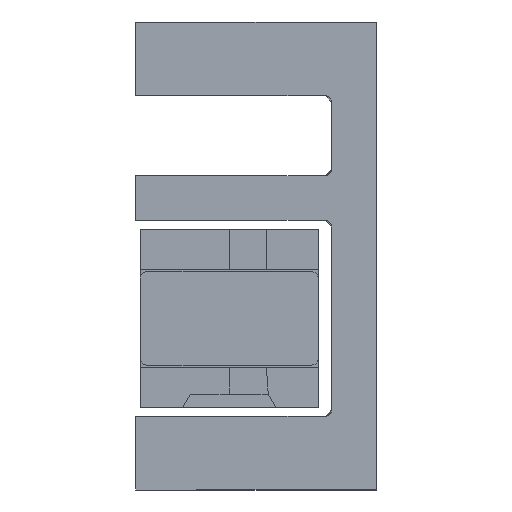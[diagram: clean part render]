
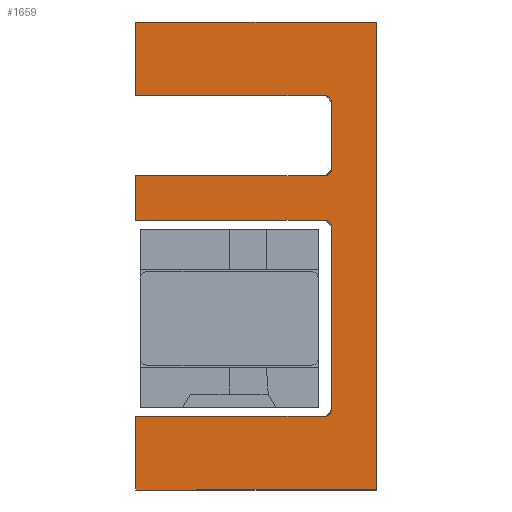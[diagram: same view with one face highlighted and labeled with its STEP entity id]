
A CAD part, front view. The second image highlights one B-rep face of the part: STEP entity #1659.
In plain terms, the highlighted planar face has unit normal (0, -1, 0) as drawn and (0, 0, -1) by its records, which use the part's own axes.
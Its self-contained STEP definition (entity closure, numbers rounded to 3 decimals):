
#19 = EDGE_CURVE ( 'NONE', #894, #3797, #5374, .T. ) ;
#50 = LINE ( 'NONE', #6784, #2550 ) ;
#153 = CIRCLE ( 'NONE', #3770, 0.3 ) ;
#171 = DIRECTION ( 'NONE',  ( 1., 0., 0. ) ) ;
#185 = VERTEX_POINT ( 'NONE', #811 ) ;
#188 = AXIS2_PLACEMENT_3D ( 'NONE', #3116, #5243, #4728 ) ;
#193 = DIRECTION ( 'NONE',  ( 1., 0., 0. ) ) ;
#342 = CARTESIAN_POINT ( 'NONE',  ( 19.3, 1.6, -2870. ) ) ;
#374 = EDGE_LOOP ( 'NONE', ( #6816, #1006, #4424, #4082, #3987, #2815, #3539, #4876, #6753, #1213, #5441, #5026, #6028, #449, #2512, #4072 ) ) ;
#389 = VECTOR ( 'NONE', #754, 1000. ) ;
#449 = ORIENTED_EDGE ( 'NONE', *, *, #19, .F. ) ;
#475 = VECTOR ( 'NONE', #5267, 1000. ) ;
#507 = VERTEX_POINT ( 'NONE', #2284 ) ;
#515 = CARTESIAN_POINT ( 'NONE',  ( 10.4, 10.1, -2870. ) ) ;
#547 = CARTESIAN_POINT ( 'NONE',  ( 1.6, 1.6, -2870. ) ) ;
#570 = CARTESIAN_POINT ( 'NONE',  ( 12.4, 1.6, -2870. ) ) ;
#624 = DIRECTION ( 'NONE',  ( 0., -1., 0. ) ) ;
#647 = EDGE_CURVE ( 'NONE', #4475, #4938, #3147, .T. ) ;
#652 = CARTESIAN_POINT ( 'NONE',  ( 22.3, 1.6, -2870. ) ) ;
#700 = CIRCLE ( 'NONE', #4560, 0.3 ) ;
#754 = DIRECTION ( 'NONE',  ( 1., 0., 0. ) ) ;
#770 = VECTOR ( 'NONE', #5310, 1000. ) ;
#791 = DIRECTION ( 'NONE',  ( 0., -1., 0. ) ) ;
#811 = CARTESIAN_POINT ( 'NONE',  ( 12.7, 10.4, -2870. ) ) ;
#834 = CARTESIAN_POINT ( 'NONE',  ( 20.8, 10.7, -2870. ) ) ;
#884 = CARTESIAN_POINT ( 'NONE',  ( 10.4, 10.1, -2870. ) ) ;
#894 = VERTEX_POINT ( 'NONE', #907 ) ;
#899 = DIRECTION ( 'NONE',  ( 0., 0., -1. ) ) ;
#907 = CARTESIAN_POINT ( 'NONE',  ( -1.7, 1.6, -2870. ) ) ;
#920 = DIRECTION ( 'NONE',  ( 0., -1., 0. ) ) ;
#984 = CARTESIAN_POINT ( 'NONE',  ( 12.4, 10.1, -2870. ) ) ;
#1004 = DIRECTION ( 'NONE',  ( 0., 0., -1. ) ) ;
#1006 = ORIENTED_EDGE ( 'NONE', *, *, #3425, .F. ) ;
#1213 = ORIENTED_EDGE ( 'NONE', *, *, #647, .T. ) ;
#1226 = DIRECTION ( 'NONE',  ( -1., 0., 0. ) ) ;
#1293 = CARTESIAN_POINT ( 'NONE',  ( 1.9, 10.4, -2870. ) ) ;
#1298 = CARTESIAN_POINT ( 'NONE',  ( 12.4, 10.4, -2870. ) ) ;
#1307 = EDGE_CURVE ( 'NONE', #2364, #185, #153, .T. ) ;
#1477 = EDGE_CURVE ( 'NONE', #5698, #1702, #5544, .T. ) ;
#1517 = VERTEX_POINT ( 'NONE', #3800 ) ;
#1603 = DIRECTION ( 'NONE',  ( 0., 1., 0. ) ) ;
#1633 = VECTOR ( 'NONE', #4474, 1000. ) ;
#1659 = ADVANCED_FACE ( 'NONE', ( #2997 ), #2508, .T. ) ;
#1702 = VERTEX_POINT ( 'NONE', #6781 ) ;
#1708 = VERTEX_POINT ( 'NONE', #570 ) ;
#1781 = VECTOR ( 'NONE', #791, 1000. ) ;
#1863 = VERTEX_POINT ( 'NONE', #6061 ) ;
#1920 = DIRECTION ( 'NONE',  ( 0., 1., 0. ) ) ;
#2018 = CARTESIAN_POINT ( 'NONE',  ( -1.7, 10.4, -2870. ) ) ;
#2179 = VECTOR ( 'NONE', #1226, 1000. ) ;
#2237 = VECTOR ( 'NONE', #624, 1000. ) ;
#2256 = LINE ( 'NONE', #1293, #2179 ) ;
#2284 = CARTESIAN_POINT ( 'NONE',  ( -1.7, 12.4, -2870. ) ) ;
#2330 = CARTESIAN_POINT ( 'NONE',  ( 22.3, 1.6, -2870. ) ) ;
#2364 = VERTEX_POINT ( 'NONE', #984 ) ;
#2432 = EDGE_CURVE ( 'NONE', #1517, #4498, #6408, .T. ) ;
#2477 = EDGE_CURVE ( 'NONE', #6359, #4490, #700, .T. ) ;
#2508 = PLANE ( 'NONE',  #4895 ) ;
#2512 = ORIENTED_EDGE ( 'NONE', *, *, #3885, .T. ) ;
#2550 = VECTOR ( 'NONE', #6362, 1000. ) ;
#2551 = AXIS2_PLACEMENT_3D ( 'NONE', #3618, #1004, #193 ) ;
#2696 = CARTESIAN_POINT ( 'NONE',  ( 19.3, 10.4, -2870. ) ) ;
#2773 = EDGE_CURVE ( 'NONE', #2364, #1708, #5042, .T. ) ;
#2815 = ORIENTED_EDGE ( 'NONE', *, *, #1307, .F. ) ;
#2945 = VECTOR ( 'NONE', #1603, 1000. ) ;
#2997 = FACE_OUTER_BOUND ( 'NONE', #374, .T. ) ;
#3116 = CARTESIAN_POINT ( 'NONE',  ( 10.1, 10.1, -2870. ) ) ;
#3147 = CIRCLE ( 'NONE', #188, 0.3 ) ;
#3265 = CARTESIAN_POINT ( 'NONE',  ( 1.9, 10.1, -2870. ) ) ;
#3425 = EDGE_CURVE ( 'NONE', #3918, #4498, #3955, .T. ) ;
#3539 = ORIENTED_EDGE ( 'NONE', *, *, #2773, .T. ) ;
#3618 = CARTESIAN_POINT ( 'NONE',  ( 15.7, 10.1, -2870. ) ) ;
#3720 = EDGE_CURVE ( 'NONE', #4490, #3797, #6486, .T. ) ;
#3770 = AXIS2_PLACEMENT_3D ( 'NONE', #6661, #899, #6619 ) ;
#3773 = DIRECTION ( 'NONE',  ( 1., 0., 0. ) ) ;
#3797 = VERTEX_POINT ( 'NONE', #547 ) ;
#3800 = CARTESIAN_POINT ( 'NONE',  ( 19.3, 12.4, -2870. ) ) ;
#3835 = EDGE_CURVE ( 'NONE', #3918, #1702, #6343, .T. ) ;
#3885 = EDGE_CURVE ( 'NONE', #894, #507, #4025, .T. ) ;
#3918 = VERTEX_POINT ( 'NONE', #6690 ) ;
#3955 = LINE ( 'NONE', #2330, #1633 ) ;
#3987 = ORIENTED_EDGE ( 'NONE', *, *, #6506, .F. ) ;
#4024 = CARTESIAN_POINT ( 'NONE',  ( 1.9, 10.4, -2870. ) ) ;
#4025 = LINE ( 'NONE', #2018, #5832 ) ;
#4072 = ORIENTED_EDGE ( 'NONE', *, *, #4679, .F. ) ;
#4082 = ORIENTED_EDGE ( 'NONE', *, *, #1477, .F. ) ;
#4163 = LINE ( 'NONE', #515, #475 ) ;
#4424 = ORIENTED_EDGE ( 'NONE', *, *, #3835, .T. ) ;
#4425 = LINE ( 'NONE', #5997, #389 ) ;
#4464 = VECTOR ( 'NONE', #171, 1000. ) ;
#4474 = DIRECTION ( 'NONE',  ( 1., 0., 0. ) ) ;
#4475 = VERTEX_POINT ( 'NONE', #884 ) ;
#4490 = VERTEX_POINT ( 'NONE', #5688 ) ;
#4498 = VERTEX_POINT ( 'NONE', #342 ) ;
#4560 = AXIS2_PLACEMENT_3D ( 'NONE', #3265, #6822, #3773 ) ;
#4679 = EDGE_CURVE ( 'NONE', #1517, #507, #50, .T. ) ;
#4728 = DIRECTION ( 'NONE',  ( 1., 0., 0. ) ) ;
#4786 = CARTESIAN_POINT ( 'NONE',  ( 15.7, 10.4, -2870. ) ) ;
#4876 = ORIENTED_EDGE ( 'NONE', *, *, #5331, .F. ) ;
#4895 = AXIS2_PLACEMENT_3D ( 'NONE', #834, #6147, #6115 ) ;
#4938 = VERTEX_POINT ( 'NONE', #5656 ) ;
#5026 = ORIENTED_EDGE ( 'NONE', *, *, #2477, .T. ) ;
#5042 = LINE ( 'NONE', #1298, #1781 ) ;
#5144 = CARTESIAN_POINT ( 'NONE',  ( 16., 9.7, -2870. ) ) ;
#5243 = DIRECTION ( 'NONE',  ( 0., 0., 1. ) ) ;
#5267 = DIRECTION ( 'NONE',  ( 0., 1., 0. ) ) ;
#5310 = DIRECTION ( 'NONE',  ( 1., 0., 0. ) ) ;
#5331 = EDGE_CURVE ( 'NONE', #1863, #1708, #4425, .T. ) ;
#5374 = LINE ( 'NONE', #652, #4464 ) ;
#5441 = ORIENTED_EDGE ( 'NONE', *, *, #6262, .T. ) ;
#5544 = CIRCLE ( 'NONE', #2551, 0.3 ) ;
#5656 = CARTESIAN_POINT ( 'NONE',  ( 10.1, 10.4, -2870. ) ) ;
#5666 = EDGE_CURVE ( 'NONE', #1863, #4475, #4163, .T. ) ;
#5688 = CARTESIAN_POINT ( 'NONE',  ( 1.6, 10.1, -2870. ) ) ;
#5698 = VERTEX_POINT ( 'NONE', #4786 ) ;
#5832 = VECTOR ( 'NONE', #1920, 1000. ) ;
#5854 = LINE ( 'NONE', #6311, #770 ) ;
#5997 = CARTESIAN_POINT ( 'NONE',  ( 22.3, 1.6, -2870. ) ) ;
#6028 = ORIENTED_EDGE ( 'NONE', *, *, #3720, .T. ) ;
#6061 = CARTESIAN_POINT ( 'NONE',  ( 10.4, 1.6, -2870. ) ) ;
#6095 = CARTESIAN_POINT ( 'NONE',  ( 1.6, 1.9, -2870. ) ) ;
#6115 = DIRECTION ( 'NONE',  ( 1., 0., 0. ) ) ;
#6147 = DIRECTION ( 'NONE',  ( 0., 0., -1. ) ) ;
#6262 = EDGE_CURVE ( 'NONE', #4938, #6359, #2256, .T. ) ;
#6311 = CARTESIAN_POINT ( 'NONE',  ( 16., 10.4, -2870. ) ) ;
#6343 = LINE ( 'NONE', #5144, #2945 ) ;
#6359 = VERTEX_POINT ( 'NONE', #4024 ) ;
#6362 = DIRECTION ( 'NONE',  ( -1., 0., 0. ) ) ;
#6408 = LINE ( 'NONE', #2696, #2237 ) ;
#6486 = LINE ( 'NONE', #6095, #6490 ) ;
#6490 = VECTOR ( 'NONE', #920, 1000. ) ;
#6506 = EDGE_CURVE ( 'NONE', #185, #5698, #5854, .T. ) ;
#6619 = DIRECTION ( 'NONE',  ( 1., 0., 0. ) ) ;
#6661 = CARTESIAN_POINT ( 'NONE',  ( 12.7, 10.1, -2870. ) ) ;
#6690 = CARTESIAN_POINT ( 'NONE',  ( 16., 1.6, -2870. ) ) ;
#6753 = ORIENTED_EDGE ( 'NONE', *, *, #5666, .T. ) ;
#6781 = CARTESIAN_POINT ( 'NONE',  ( 16., 10.1, -2870. ) ) ;
#6784 = CARTESIAN_POINT ( 'NONE',  ( 20.8, 12.4, -2870. ) ) ;
#6816 = ORIENTED_EDGE ( 'NONE', *, *, #2432, .T. ) ;
#6822 = DIRECTION ( 'NONE',  ( 0., 0., 1. ) ) ;
